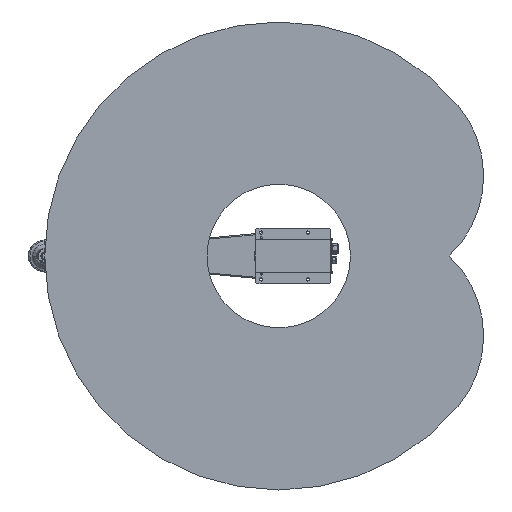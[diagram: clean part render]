
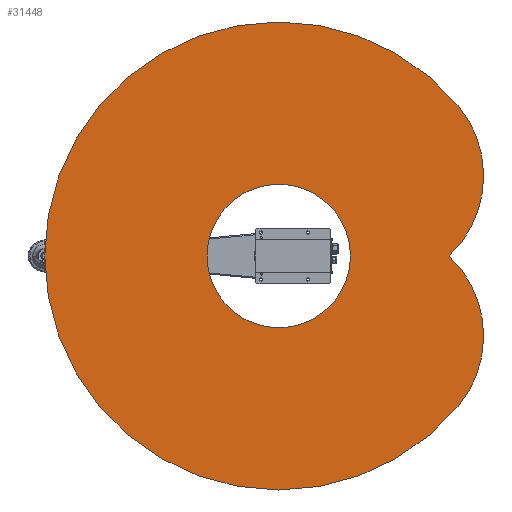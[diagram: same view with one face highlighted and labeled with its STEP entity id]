
A CAD part, front view. The second image highlights one B-rep face of the part: STEP entity #31448.
In plain terms, the highlighted planar face has unit normal (0, -1, 0).
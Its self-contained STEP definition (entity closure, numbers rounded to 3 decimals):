
#3122 = DIRECTION ( 'NONE',  ( 0., 0., 1. ) ) ;
#4608 = AXIS2_PLACEMENT_3D ( 'NONE', #77278, #30491, #3122 ) ;
#4943 = CARTESIAN_POINT ( 'NONE',  ( 0., 0., 245.245 ) ) ;
#5689 = AXIS2_PLACEMENT_3D ( 'NONE', #27114, #84172, #64159 ) ;
#10881 = DIRECTION ( 'NONE',  ( 0., 1., 0. ) ) ;
#13772 = VERTEX_POINT ( 'NONE', #14317 ) ;
#14317 = CARTESIAN_POINT ( 'NONE',  ( 582.464, 0., 0. ) ) ;
#14883 = CARTESIAN_POINT ( 'NONE',  ( 325.569, 0., 273.185 ) ) ;
#17455 = DIRECTION ( 'NONE',  ( 0., 0., 1. ) ) ;
#17772 = FACE_BOUND ( 'NONE', #71351, .T. ) ;
#19974 = CARTESIAN_POINT ( 'NONE',  ( 0., 0., 0. ) ) ;
#20446 = EDGE_CURVE ( 'NONE', #120167, #13772, #89314, .T. ) ;
#20513 = EDGE_CURVE ( 'NONE', #78032, #46981, #40794, .T. ) ;
#21049 = ORIENTED_EDGE ( 'NONE', *, *, #25972, .T. ) ;
#22632 = CARTESIAN_POINT ( 'NONE',  ( 0., 0., 0. ) ) ;
#24777 = CIRCLE ( 'NONE', #28708, 800. ) ;
#25972 = EDGE_CURVE ( 'NONE', #83980, #57297, #74210, .T. ) ;
#27114 = CARTESIAN_POINT ( 'NONE',  ( 0., 0., 0. ) ) ;
#28708 = AXIS2_PLACEMENT_3D ( 'NONE', #116831, #33755, #70797 ) ;
#30491 = DIRECTION ( 'NONE',  ( 0., 1., 0. ) ) ;
#31265 = AXIS2_PLACEMENT_3D ( 'NONE', #14883, #89573, #70805 ) ;
#31448 = ADVANCED_FACE ( 'NONE', ( #17772, #91831 ), #82770, .F. ) ;
#33167 = ORIENTED_EDGE ( 'NONE', *, *, #105977, .T. ) ;
#33538 = ORIENTED_EDGE ( 'NONE', *, *, #113014, .F. ) ;
#33755 = DIRECTION ( 'NONE',  ( 0., 1., 0. ) ) ;
#35736 = DIRECTION ( 'NONE',  ( 0., 1., 0. ) ) ;
#36735 = CIRCLE ( 'NONE', #5689, 245.245 ) ;
#36903 = EDGE_CURVE ( 'NONE', #46981, #88578, #92568, .T. ) ;
#36906 = AXIS2_PLACEMENT_3D ( 'NONE', #22632, #103989, #105189 ) ;
#39221 = CARTESIAN_POINT ( 'NONE',  ( 612.836, 0., -514.23 ) ) ;
#40280 = AXIS2_PLACEMENT_3D ( 'NONE', #19974, #10881, #66771 ) ;
#40794 = CIRCLE ( 'NONE', #36906, 800. ) ;
#46981 = VERTEX_POINT ( 'NONE', #116594 ) ;
#49548 = ORIENTED_EDGE ( 'NONE', *, *, #36903, .F. ) ;
#56134 = DIRECTION ( 'NONE',  ( 0., -1., 0. ) ) ;
#57297 = VERTEX_POINT ( 'NONE', #58801 ) ;
#57480 = ORIENTED_EDGE ( 'NONE', *, *, #20446, .T. ) ;
#58801 = CARTESIAN_POINT ( 'NONE',  ( 0., 0., -245.245 ) ) ;
#64159 = DIRECTION ( 'NONE',  ( 0., 0., 1. ) ) ;
#66771 = DIRECTION ( 'NONE',  ( 0., 0., 1. ) ) ;
#70797 = DIRECTION ( 'NONE',  ( 0., 0., 1. ) ) ;
#70805 = DIRECTION ( 'NONE',  ( 0., 0., -1. ) ) ;
#71351 = EDGE_LOOP ( 'NONE', ( #21049, #92866 ) ) ;
#73784 = AXIS2_PLACEMENT_3D ( 'NONE', #111288, #56134, #93104 ) ;
#74210 = CIRCLE ( 'NONE', #76191, 245.245 ) ;
#76191 = AXIS2_PLACEMENT_3D ( 'NONE', #117605, #35736, #17455 ) ;
#77278 = CARTESIAN_POINT ( 'NONE',  ( 0., 0., 0. ) ) ;
#78032 = VERTEX_POINT ( 'NONE', #103125 ) ;
#82531 = EDGE_CURVE ( 'NONE', #57297, #83980, #36735, .T. ) ;
#82770 = PLANE ( 'NONE',  #4608 ) ;
#83980 = VERTEX_POINT ( 'NONE', #4943 ) ;
#84172 = DIRECTION ( 'NONE',  ( 0., 1., 0. ) ) ;
#88578 = VERTEX_POINT ( 'NONE', #102352 ) ;
#89314 = CIRCLE ( 'NONE', #73784, 375. ) ;
#89573 = DIRECTION ( 'NONE',  ( 0., -1., 0. ) ) ;
#91831 = FACE_OUTER_BOUND ( 'NONE', #93252, .T. ) ;
#92568 = CIRCLE ( 'NONE', #40280, 800. ) ;
#92866 = ORIENTED_EDGE ( 'NONE', *, *, #82531, .T. ) ;
#93104 = DIRECTION ( 'NONE',  ( 0., 0., -1. ) ) ;
#93252 = EDGE_LOOP ( 'NONE', ( #57480, #33167, #49548, #105764, #33538 ) ) ;
#102352 = CARTESIAN_POINT ( 'NONE',  ( 612.836, 0., 514.23 ) ) ;
#103125 = CARTESIAN_POINT ( 'NONE',  ( 0., 0., -800. ) ) ;
#103989 = DIRECTION ( 'NONE',  ( 0., 1., 0. ) ) ;
#105189 = DIRECTION ( 'NONE',  ( 0., 0., 1. ) ) ;
#105764 = ORIENTED_EDGE ( 'NONE', *, *, #20513, .F. ) ;
#105977 = EDGE_CURVE ( 'NONE', #13772, #88578, #116489, .T. ) ;
#111288 = CARTESIAN_POINT ( 'NONE',  ( 325.569, 0., -273.185 ) ) ;
#113014 = EDGE_CURVE ( 'NONE', #120167, #78032, #24777, .T. ) ;
#116489 = CIRCLE ( 'NONE', #31265, 375. ) ;
#116594 = CARTESIAN_POINT ( 'NONE',  ( 0., 0., 800. ) ) ;
#116831 = CARTESIAN_POINT ( 'NONE',  ( 0., 0., 0. ) ) ;
#117605 = CARTESIAN_POINT ( 'NONE',  ( 0., 0., 0. ) ) ;
#120167 = VERTEX_POINT ( 'NONE', #39221 ) ;
